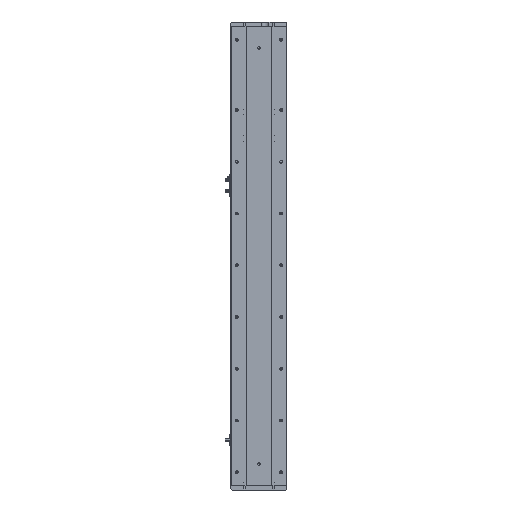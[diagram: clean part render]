
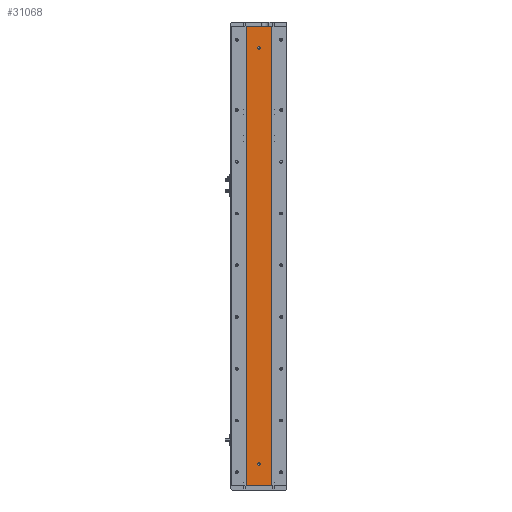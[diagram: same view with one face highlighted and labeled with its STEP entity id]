
A CAD part, left-side view. The second image highlights one B-rep face of the part: STEP entity #31068.
In plain terms, the highlighted planar face has unit normal (-1, 0, 0).
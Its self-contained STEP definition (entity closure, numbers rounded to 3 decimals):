
#106 = DIRECTION ( 'NONE',  ( 0., 0., 1. ) ) ;
#179 = CIRCLE ( 'NONE', #4187, 3. ) ;
#1148 = VERTEX_POINT ( 'NONE', #23079 ) ;
#1260 = DIRECTION ( 'NONE',  ( 0., 0., 1. ) ) ;
#1281 = LINE ( 'NONE', #6824, #26267 ) ;
#2107 = CIRCLE ( 'NONE', #30685, 3. ) ;
#2175 = DIRECTION ( 'NONE',  ( -1., 0., 0. ) ) ;
#2739 = VECTOR ( 'NONE', #22817, 1000. ) ;
#4187 = AXIS2_PLACEMENT_3D ( 'NONE', #30274, #15722, #1260 ) ;
#4591 = ORIENTED_EDGE ( 'NONE', *, *, #18954, .F. ) ;
#4786 = DIRECTION ( 'NONE',  ( 0., -1., 0. ) ) ;
#5752 = DIRECTION ( 'NONE',  ( 1., 0., 0. ) ) ;
#5942 = AXIS2_PLACEMENT_3D ( 'NONE', #16637, #2175, #19103 ) ;
#6824 = CARTESIAN_POINT ( 'NONE',  ( -24.994, -29.785, 1065. ) ) ;
#7504 = CIRCLE ( 'NONE', #5942, 3. ) ;
#7595 = VERTEX_POINT ( 'NONE', #23274 ) ;
#8176 = CARTESIAN_POINT ( 'NONE',  ( -24.994, 29.785, 0. ) ) ;
#8409 = EDGE_CURVE ( 'NONE', #21762, #11944, #7504, .T. ) ;
#9268 = DIRECTION ( 'NONE',  ( 0., 0., -1. ) ) ;
#10355 = CARTESIAN_POINT ( 'NONE',  ( -24.994, 0., 1015. ) ) ;
#10696 = FACE_BOUND ( 'NONE', #21355, .T. ) ;
#11597 = EDGE_CURVE ( 'NONE', #11944, #21762, #179, .T. ) ;
#11620 = EDGE_LOOP ( 'NONE', ( #18472, #18035 ) ) ;
#11877 = CARTESIAN_POINT ( 'NONE',  ( -24.994, 0., 47. ) ) ;
#11944 = VERTEX_POINT ( 'NONE', #17068 ) ;
#12278 = EDGE_LOOP ( 'NONE', ( #17632, #22226, #4591, #13509 ) ) ;
#12781 = DIRECTION ( 'NONE',  ( 0., 0., 1. ) ) ;
#13064 = PLANE ( 'NONE',  #29566 ) ;
#13136 = CARTESIAN_POINT ( 'NONE',  ( -24.994, 0., 1018. ) ) ;
#13409 = EDGE_CURVE ( 'NONE', #15450, #26945, #2107, .T. ) ;
#13509 = ORIENTED_EDGE ( 'NONE', *, *, #25748, .T. ) ;
#14201 = EDGE_CURVE ( 'NONE', #26945, #15450, #27870, .T. ) ;
#14372 = CARTESIAN_POINT ( 'NONE',  ( -24.994, 29.785, 1065. ) ) ;
#14570 = DIRECTION ( 'NONE',  ( -1., 0., 0. ) ) ;
#14594 = LINE ( 'NONE', #14372, #25981 ) ;
#15450 = VERTEX_POINT ( 'NONE', #13136 ) ;
#15722 = DIRECTION ( 'NONE',  ( -1., 0., 0. ) ) ;
#15842 = VECTOR ( 'NONE', #28546, 1000. ) ;
#16637 = CARTESIAN_POINT ( 'NONE',  ( -24.994, 0., 50. ) ) ;
#17068 = CARTESIAN_POINT ( 'NONE',  ( -24.994, 0., 53. ) ) ;
#17401 = VERTEX_POINT ( 'NONE', #29347 ) ;
#17537 = VERTEX_POINT ( 'NONE', #17651 ) ;
#17632 = ORIENTED_EDGE ( 'NONE', *, *, #31072, .T. ) ;
#17651 = CARTESIAN_POINT ( 'NONE',  ( -24.994, 29.785, 0. ) ) ;
#18035 = ORIENTED_EDGE ( 'NONE', *, *, #8409, .F. ) ;
#18472 = ORIENTED_EDGE ( 'NONE', *, *, #11597, .F. ) ;
#18954 = EDGE_CURVE ( 'NONE', #1148, #7595, #14594, .T. ) ;
#19103 = DIRECTION ( 'NONE',  ( 0., 0., 1. ) ) ;
#21355 = EDGE_LOOP ( 'NONE', ( #24275, #28919 ) ) ;
#21762 = VERTEX_POINT ( 'NONE', #11877 ) ;
#22060 = LINE ( 'NONE', #8176, #2739 ) ;
#22226 = ORIENTED_EDGE ( 'NONE', *, *, #30710, .F. ) ;
#22817 = DIRECTION ( 'NONE',  ( 0., -1., 0. ) ) ;
#22828 = FACE_OUTER_BOUND ( 'NONE', #12278, .T. ) ;
#23079 = CARTESIAN_POINT ( 'NONE',  ( -24.994, 29.785, 1065. ) ) ;
#23274 = CARTESIAN_POINT ( 'NONE',  ( -24.994, -29.785, 1065. ) ) ;
#24275 = ORIENTED_EDGE ( 'NONE', *, *, #13409, .F. ) ;
#25133 = CARTESIAN_POINT ( 'NONE',  ( -24.994, 29.785, 1065. ) ) ;
#25400 = LINE ( 'NONE', #26092, #15842 ) ;
#25748 = EDGE_CURVE ( 'NONE', #1148, #17537, #25400, .T. ) ;
#25981 = VECTOR ( 'NONE', #4786, 1000. ) ;
#26092 = CARTESIAN_POINT ( 'NONE',  ( -24.994, 29.785, 1065. ) ) ;
#26267 = VECTOR ( 'NONE', #9268, 1000. ) ;
#26945 = VERTEX_POINT ( 'NONE', #29430 ) ;
#27226 = AXIS2_PLACEMENT_3D ( 'NONE', #29123, #14570, #106 ) ;
#27292 = DIRECTION ( 'NONE',  ( -1., 0., 0. ) ) ;
#27870 = CIRCLE ( 'NONE', #27226, 3. ) ;
#28546 = DIRECTION ( 'NONE',  ( 0., 0., -1. ) ) ;
#28919 = ORIENTED_EDGE ( 'NONE', *, *, #14201, .F. ) ;
#29123 = CARTESIAN_POINT ( 'NONE',  ( -24.994, 0., 1015. ) ) ;
#29347 = CARTESIAN_POINT ( 'NONE',  ( -24.994, -29.785, 0. ) ) ;
#29430 = CARTESIAN_POINT ( 'NONE',  ( -24.994, 0., 1012. ) ) ;
#29566 = AXIS2_PLACEMENT_3D ( 'NONE', #25133, #5752, #30031 ) ;
#30031 = DIRECTION ( 'NONE',  ( 0., 0., -1. ) ) ;
#30044 = FACE_BOUND ( 'NONE', #11620, .T. ) ;
#30274 = CARTESIAN_POINT ( 'NONE',  ( -24.994, 0., 50. ) ) ;
#30685 = AXIS2_PLACEMENT_3D ( 'NONE', #10355, #27292, #12781 ) ;
#30710 = EDGE_CURVE ( 'NONE', #7595, #17401, #1281, .T. ) ;
#31068 = ADVANCED_FACE ( 'NONE', ( #10696, #30044, #22828 ), #13064, .F. ) ;
#31072 = EDGE_CURVE ( 'NONE', #17537, #17401, #22060, .T. ) ;
